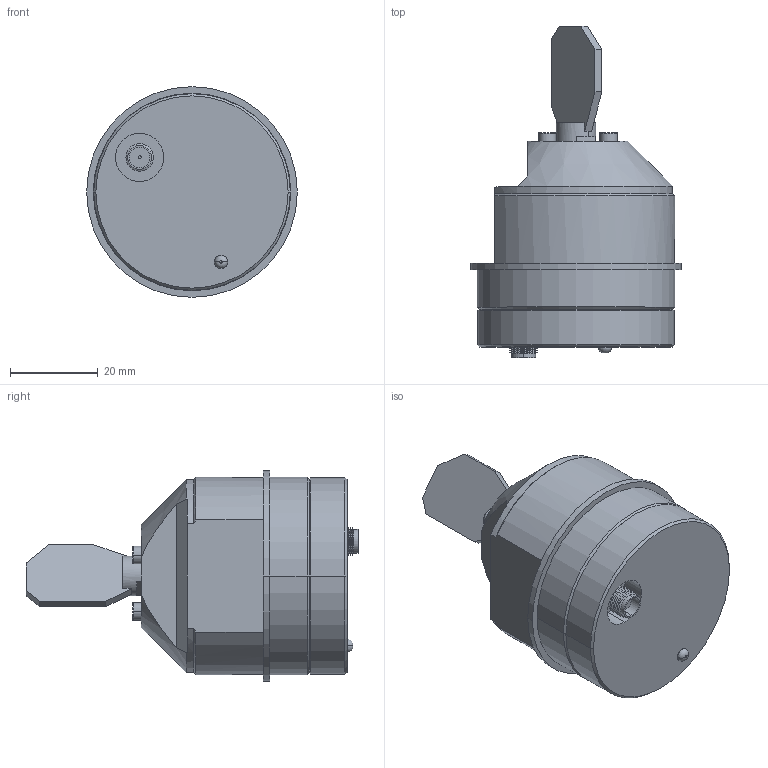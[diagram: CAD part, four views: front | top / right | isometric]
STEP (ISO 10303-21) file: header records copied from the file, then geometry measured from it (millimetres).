
FILE_DESCRIPTION (( 'STEP AP214' ), '1' );
FILE_NAME ('RTAY_A10.STEP', '2019-06-06T08:08:46', ( '' ), ( '' ), 'SwSTEP 2.0', 'SolidWorks 2011', '' );
FILE_SCHEMA (( 'AUTOMOTIVE_DESIGN' ));
Length unit declared in the file: millimetre
Products named in the file (5): socket head cap screw_iso_ISO 4762 M2 x 5 --- 5N; RTAY_A10; A10_MirrorY; Scanner_Solid; Scanner_Draw06_4
Assembly tree (5 placements, depth 2):
  RTAY_A10
    socket head cap screw_iso_ISO 4762 M2 x 5 --- 5N  x2
    Scanner_Solid
    Scanner_Draw06_4
    A10_MirrorY
Bounding box: 48 x 75.65 x 48 mm (x, y, z)
Volume: 65957.5 mm3; surface area: 11435.9 mm2
Topology: 5 solids, 5 shells, 197 faces, 440 edges, 266 vertices
Faces by surface type: plane 79, cylinder 52, cone 50, torus 16
Entity records: 5981 total; most frequent: DIRECTION 917, CARTESIAN_POINT 841, ORIENTED_EDGE 760, EDGE_CURVE 380, AXIS2_PLACEMENT_3D 369, VERTEX_POINT 233, CIRCLE 191, EDGE_LOOP 189
